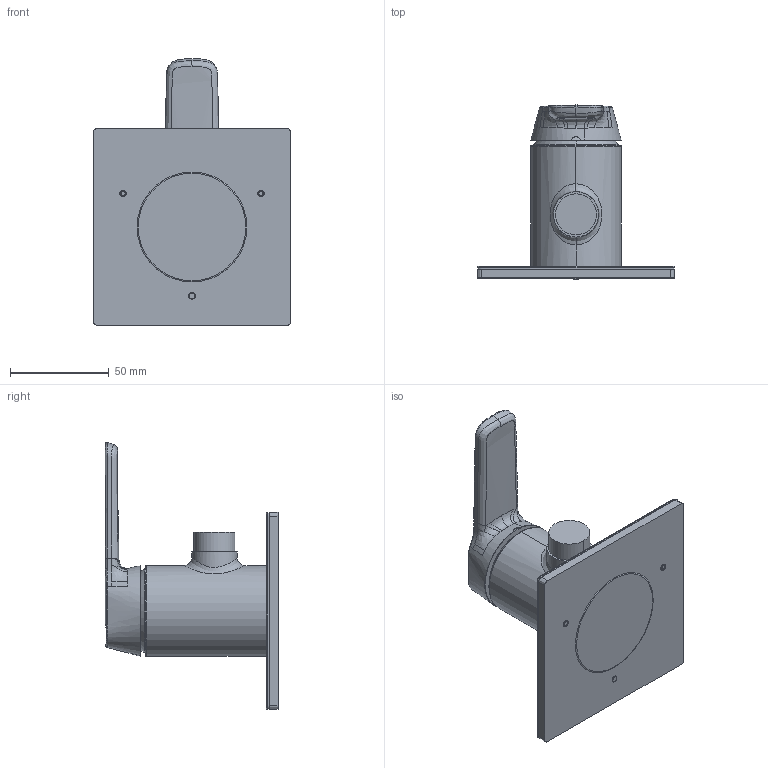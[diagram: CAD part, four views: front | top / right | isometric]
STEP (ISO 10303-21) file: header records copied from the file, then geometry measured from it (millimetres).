
FILE_DESCRIPTION((''),'2;1');
FILE_NAME('MONTA1__SW0001','2021-06-08T10:40:05',('KS894'),(''),'CREO PARAMETRIC BY PTC INC, 2018500','CREO PARAMETRIC BY PTC INC, 2018500','');
FILE_SCHEMA(('CONFIG_CONTROL_DESIGN'));
Length unit declared in the file: millimetre
Products named in the file (1): MONTA1__SW0001
Bounding box: 100 x 88.18 x 135.52 mm (x, y, z)
Volume: 209047.3 mm3; surface area: 39286.5 mm2
Topology: 1 solids, 3 shells, 116 faces, 265 edges, 164 vertices
Faces by surface type: bspline 36, cylinder 23, plane 23, torus 17, cone 11, extrusion 4, sphere 2
Entity records: 13451 total; most frequent: CARTESIAN_POINT 11089, ORIENTED_EDGE 530, DIRECTION 388, EDGE_CURVE 265, VERTEX_POINT 164, AXIS2_PLACEMENT_3D 159, EDGE_LOOP 125, B_SPLINE_CURVE_WITH_KNOTS 120
